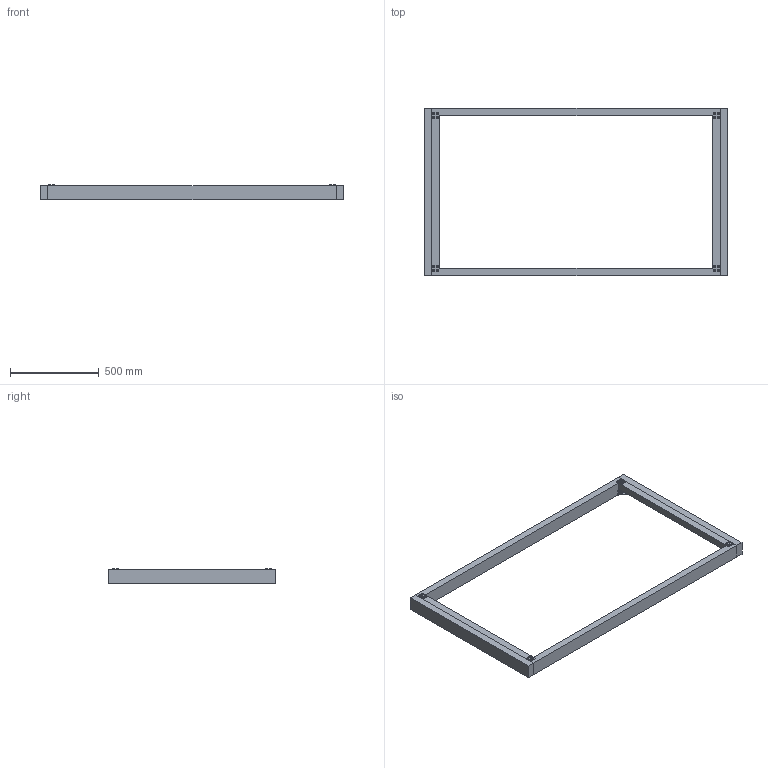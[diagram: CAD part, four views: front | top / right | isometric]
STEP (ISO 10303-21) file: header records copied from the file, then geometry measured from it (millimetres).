
FILE_DESCRIPTION(/* description */ (''),/* implementation_level */ '2;1');
FILE_NAME(/* name */ 'frame-gantry',/* time_stamp */ '2013-11-26T23:52:45+01:00',/* author */ (''),/* organization */ (''),/* preprocessor_version */ 'ST-DEVELOPER v14',/* originating_system */ '',/* authorisation */ '');
FILE_SCHEMA (('AUTOMOTIVE_DESIGN'));
Products named in the file (6): Document; nut tslot, post, M5; screw DIN912-like, M5x10; angle bracket, heavy, double; plate bracket, double; screw DIN912-like, M5x08
Assembly tree (52 placements, depth 2):
  Document
    nut tslot, post, M5  x24
    screw DIN912-like, M5x10  x16
    angle bracket, heavy, double  x2
    plate bracket, double  x2
    screw DIN912-like, M5x08  x8
Bounding box: 1700 x 940 x 87.3 mm (x, y, z)
Volume: 19255679.1 mm3; surface area: 1628454.3 mm2
Topology: 110 solids, 110 shells, 2136 faces, 5196 edges, 3256 vertices
Faces by surface type: plane 1444, bspline 692
Entity records: 87453 total; most frequent: CARTESIAN_POINT 47370, B_SPLINE_CURVE_WITH_KNOTS 7297, ORIENTED_EDGE 5814, PCURVE 5814, DEFINITIONAL_REPRESENTATION 5814, SURFACE_CURVE 2907, EDGE_CURVE 2907, VERTEX_POINT 1860
